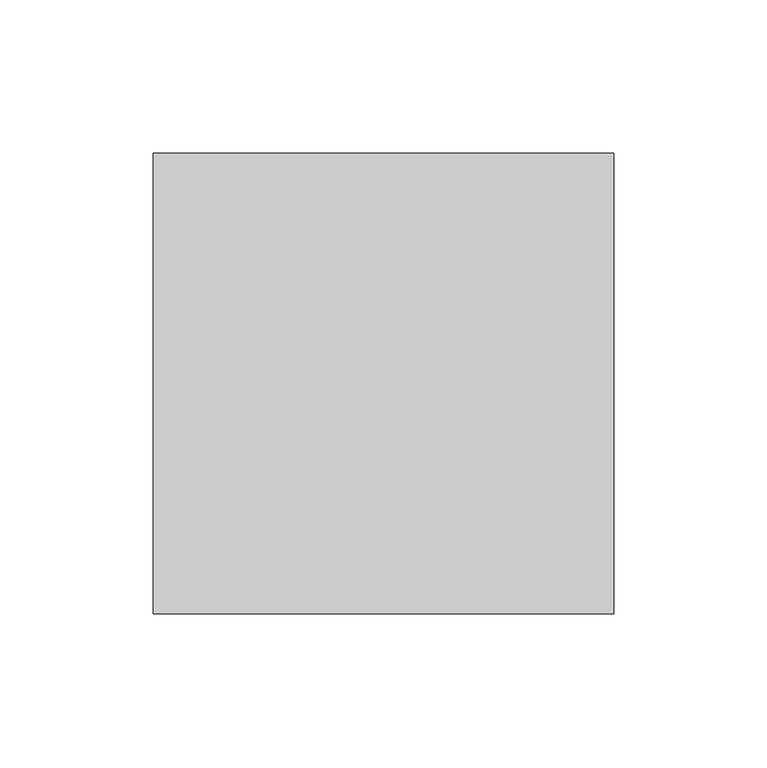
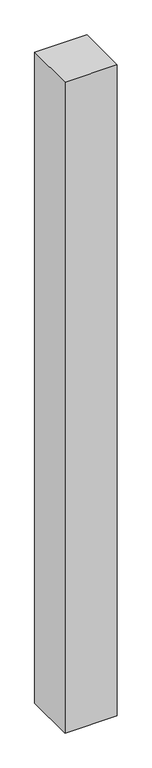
"""IFC4 building model written with IfcOpenShell, lengths in millimetres: member geometry, Угловой L-импост : Угловой L-импост."""

from ifc_helpers import new_model, si_unit, frame, origin, place, context, project, spatial, polyline, outline, extrude, source, transform, mapped, element, save


def member_bddfc12f(model_context):
    return source(origin(), model_context, "Body", "SweptSolid", [
        extrude(outline(polyline([(-75.0, -75.0), (-75.0, 75.0), (75.0, 75.0), (75.0, -75.0), (-75.0, -75.0)])), frame((0.0, 0.0, -1975.0), z_axis=(0.0, 0.0, 1.0), x_axis=(1.0, 0.0, 0.0)), (0.0, 0.0, 1.0), 1975.0),
    ])


if __name__ == "__main__":
    model = new_model("IFC4")
    model_context = context("Model", 3, world=origin())
    ifc_project = project(units=[si_unit("LENGTHUNIT", "METRE", prefix="MILLI")], contexts=[model_context])
    site = spatial("IfcSite", under=ifc_project)
    building = spatial("IfcBuilding", under=site)
    placement = place(None, origin())
    member_shape = member_bddfc12f(model_context)
    element("IfcMember", 1, ObjectType="Угловой L-импост : Угловой L-импост", at=placement, inside=building, context=model_context, shape_type="MappedRepresentation", body=[
        mapped(member_shape, transform((0.0, 0.0, 0.0), x_axis=(1.0, 0.0, 0.0), y_axis=(0.0, 1.0, 0.0), z_axis=(0.0, 0.0, 1.0))),
    ])
    save(model, "model.ifc")
